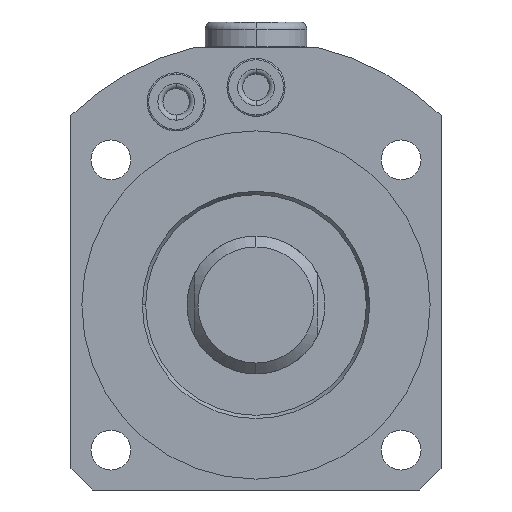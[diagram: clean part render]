
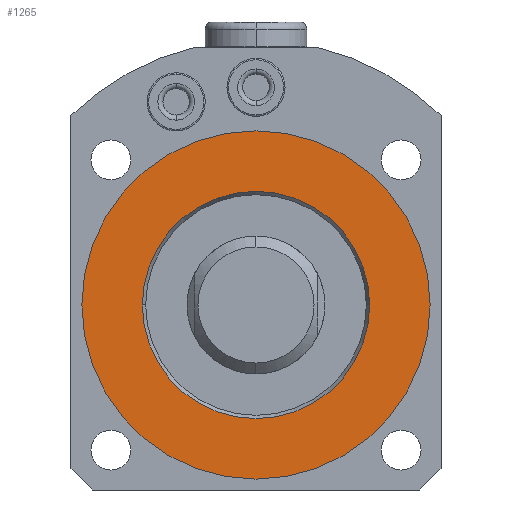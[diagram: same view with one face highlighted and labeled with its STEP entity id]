
A CAD part, front view. The second image highlights one B-rep face of the part: STEP entity #1265.
In plain terms, the highlighted planar face has unit normal (0, -1, 0).
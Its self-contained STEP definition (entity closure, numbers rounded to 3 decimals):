
#1000=FACE_BOUND('',#1747,.T.);
#1001=FACE_BOUND('',#1748,.T.);
#1059=PLANE('',#4315);
#1265=ADVANCED_FACE('',(#1000,#1001),#1059,.T.);
#1747=EDGE_LOOP('',(#2665,#2666));
#1748=EDGE_LOOP('',(#2667,#2668));
#2665=ORIENTED_EDGE('',*,*,#3635,.T.);
#2666=ORIENTED_EDGE('',*,*,#3706,.T.);
#2667=ORIENTED_EDGE('',*,*,#3629,.F.);
#2668=ORIENTED_EDGE('',*,*,#3707,.F.);
#3305=VERTEX_POINT('',#6188);
#3306=VERTEX_POINT('',#6189);
#3310=VERTEX_POINT('',#6199);
#3311=VERTEX_POINT('',#6201);
#3629=EDGE_CURVE('',#3305,#3306,#3962,.T.);
#3635=EDGE_CURVE('',#3311,#3310,#3965,.T.);
#3706=EDGE_CURVE('',#3310,#3311,#3996,.T.);
#3707=EDGE_CURVE('',#3306,#3305,#3997,.T.);
#3962=CIRCLE('',#4259,24.);
#3965=CIRCLE('',#4263,15.662);
#3996=CIRCLE('',#4312,15.662);
#3997=CIRCLE('',#4314,24.);
#4259=AXIS2_PLACEMENT_3D('',#6187,#4944,#4945);
#4263=AXIS2_PLACEMENT_3D('',#6200,#4955,#4956);
#4312=AXIS2_PLACEMENT_3D('',#6454,#5076,#5077);
#4314=AXIS2_PLACEMENT_3D('',#6456,#5080,#5081);
#4315=AXIS2_PLACEMENT_3D('',#6457,#5082,#5083);
#4944=DIRECTION('',(0.,1.,0.));
#4945=DIRECTION('',(-1.,0.,0.));
#4955=DIRECTION('',(0.,1.,0.));
#4956=DIRECTION('',(-1.,0.,0.));
#5076=DIRECTION('',(0.,1.,0.));
#5077=DIRECTION('',(-1.,0.,0.));
#5080=DIRECTION('',(0.,1.,0.));
#5081=DIRECTION('',(-1.,0.,0.));
#5082=DIRECTION('',(0.,-1.,0.));
#5083=DIRECTION('',(-1.,0.,0.));
#6187=CARTESIAN_POINT('',(0.,-64.,0.));
#6188=CARTESIAN_POINT('',(-24.,-64.,0.));
#6189=CARTESIAN_POINT('',(24.,-64.,0.));
#6199=CARTESIAN_POINT('',(-15.662,-64.,0.));
#6200=CARTESIAN_POINT('',(0.,-64.,0.));
#6201=CARTESIAN_POINT('',(15.662,-64.,0.));
#6454=CARTESIAN_POINT('',(0.,-64.,0.));
#6456=CARTESIAN_POINT('',(0.,-64.,0.));
#6457=CARTESIAN_POINT('',(-15.662,-64.,0.));
